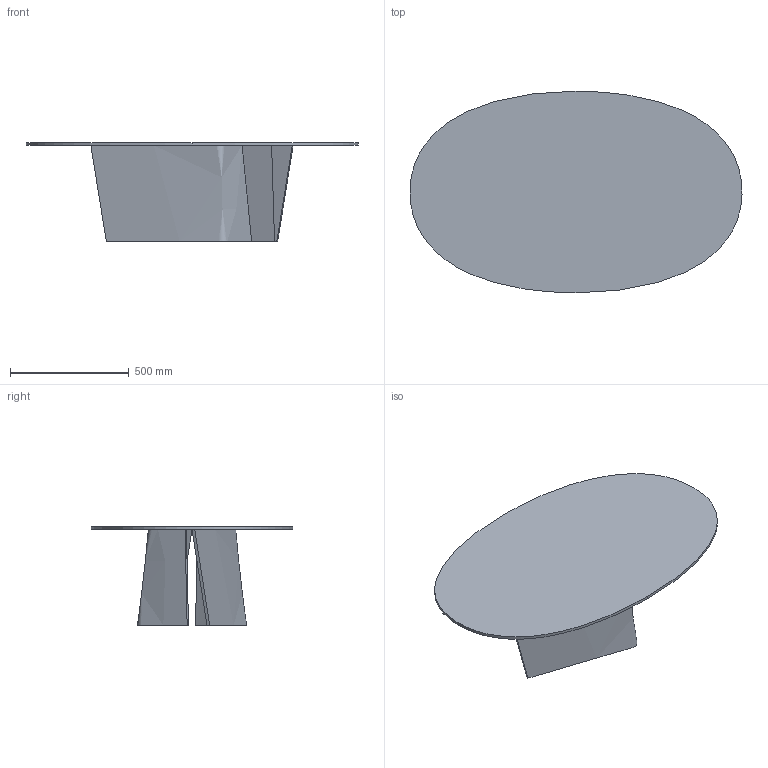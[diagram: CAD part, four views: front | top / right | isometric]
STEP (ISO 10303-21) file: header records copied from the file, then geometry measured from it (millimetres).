
FILE_DESCRIPTION(/* description */ (''),/* implementation_level */ '2;1');
FILE_NAME(/* name */ '500.201 - Accordo Tavolino ovale H42 140x85',/* time_stamp */ '2010-11-03T16:24:01+01:00',/* author */ (''),/* organization */ (''),/* preprocessor_version */ 'ST-DEVELOPER v10',/* originating_system */ '',/* authorisation */ '');
FILE_SCHEMA (('CONFIG_CONTROL_DESIGN'));
Length unit declared in the file: centimetre
Products named in the file (1): 1
Bounding box: 1399.78 x 850 x 417 mm (x, y, z)
Volume: 19208329 mm3; surface area: 3240941 mm2
Topology: 3 solids, 3 shells, 18 faces, 36 edges, 24 vertices
Faces by surface type: bspline 12, plane 6
Entity records: 716 total; most frequent: CARTESIAN_POINT 408, ORIENTED_EDGE 72, EDGE_CURVE 36, VERTEX_POINT 24, ADVANCED_FACE 18, FACE_OUTER_BOUND 18, EDGE_LOOP 18, DIRECTION 10
